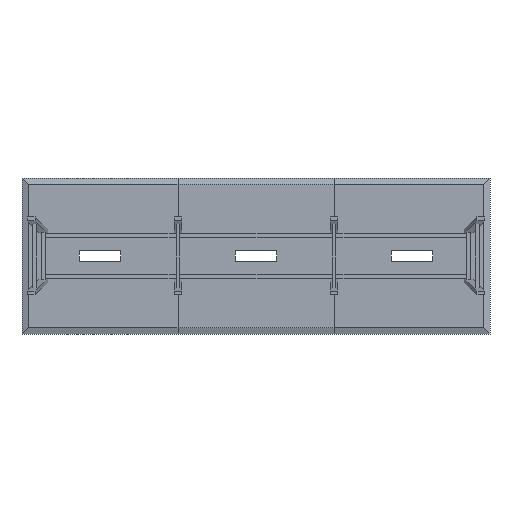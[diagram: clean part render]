
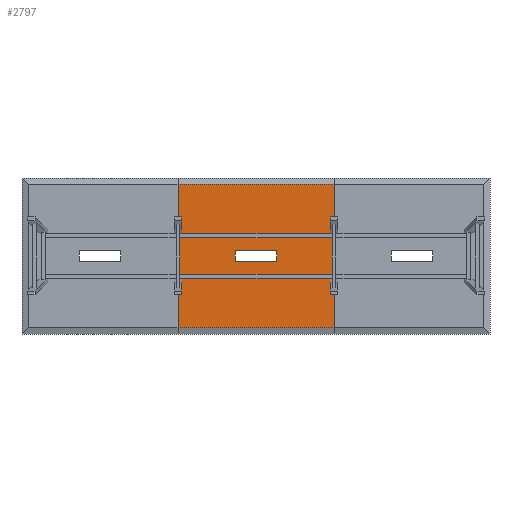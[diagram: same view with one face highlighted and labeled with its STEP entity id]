
A CAD part, front view. The second image highlights one B-rep face of the part: STEP entity #2797.
In plain terms, the highlighted planar face has unit normal (0, -1, 0).
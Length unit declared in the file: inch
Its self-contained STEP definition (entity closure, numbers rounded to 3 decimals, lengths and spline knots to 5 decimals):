
#294=FACE_BOUND('',#479,.T.);
#329=FACE_OUTER_BOUND('',#478,.T.);
#478=EDGE_LOOP('',(#2029,#2030,#2031,#2032));
#479=EDGE_LOOP('',(#2033,#2034,#2035,#2036));
#642=LINE('',#3891,#998);
#646=LINE('',#3899,#1002);
#649=LINE('',#3905,#1005);
#652=LINE('',#3910,#1008);
#657=LINE('',#3920,#1013);
#661=LINE('',#3929,#1017);
#667=LINE('',#3940,#1023);
#671=LINE('',#3947,#1027);
#998=VECTOR('',#3223,0.3937);
#1002=VECTOR('',#3229,0.3937);
#1005=VECTOR('',#3234,0.3937);
#1008=VECTOR('',#3239,0.3937);
#1013=VECTOR('',#3246,0.3937);
#1017=VECTOR('',#3254,0.3937);
#1023=VECTOR('',#3262,0.3937);
#1027=VECTOR('',#3270,0.3937);
#1343=VERTEX_POINT('',#3889);
#1344=VERTEX_POINT('',#3890);
#1347=VERTEX_POINT('',#3898);
#1349=VERTEX_POINT('',#3904);
#1351=VERTEX_POINT('',#3913);
#1354=VERTEX_POINT('',#3918);
#1357=VERTEX_POINT('',#3928);
#1360=VERTEX_POINT('',#3936);
#1590=EDGE_CURVE('',#1343,#1344,#642,.T.);
#1594=EDGE_CURVE('',#1344,#1347,#646,.T.);
#1597=EDGE_CURVE('',#1347,#1349,#649,.T.);
#1600=EDGE_CURVE('',#1349,#1343,#652,.T.);
#1605=EDGE_CURVE('',#1354,#1351,#657,.T.);
#1609=EDGE_CURVE('',#1351,#1357,#661,.T.);
#1615=EDGE_CURVE('',#1357,#1360,#667,.T.);
#1619=EDGE_CURVE('',#1360,#1354,#671,.T.);
#2029=ORIENTED_EDGE('',*,*,#1605,.F.);
#2030=ORIENTED_EDGE('',*,*,#1619,.F.);
#2031=ORIENTED_EDGE('',*,*,#1615,.F.);
#2032=ORIENTED_EDGE('',*,*,#1609,.F.);
#2033=ORIENTED_EDGE('',*,*,#1597,.T.);
#2034=ORIENTED_EDGE('',*,*,#1600,.T.);
#2035=ORIENTED_EDGE('',*,*,#1590,.T.);
#2036=ORIENTED_EDGE('',*,*,#1594,.T.);
#2651=PLANE('',#3033);
#2797=ADVANCED_FACE('',(#329,#294),#2651,.F.);
#3033=AXIS2_PLACEMENT_3D('',#3949,#3273,#3274);
#3223=DIRECTION('',(0.,0.,1.));
#3229=DIRECTION('',(1.,0.,0.));
#3234=DIRECTION('',(0.,0.,-1.));
#3239=DIRECTION('',(-1.,0.,0.));
#3246=DIRECTION('',(-1.,0.,0.));
#3254=DIRECTION('',(0.,0.,1.));
#3262=DIRECTION('',(1.,0.,0.));
#3270=DIRECTION('',(0.,0.,-1.));
#3273=DIRECTION('center_axis',(0.,1.,0.));
#3274=DIRECTION('ref_axis',(0.,0.,1.));
#3889=CARTESIAN_POINT('',(82.,0.,-32.));
#3890=CARTESIAN_POINT('',(82.,0.,-28.));
#3891=CARTESIAN_POINT('',(82.,0.,-29.));
#3898=CARTESIAN_POINT('',(98.,0.,-28.));
#3899=CARTESIAN_POINT('',(94.,0.,-28.));
#3904=CARTESIAN_POINT('',(98.,0.,-32.));
#3905=CARTESIAN_POINT('',(98.,0.,-31.));
#3910=CARTESIAN_POINT('',(86.,0.,-32.));
#3913=CARTESIAN_POINT('',(60.,0.,-57.59596));
#3918=CARTESIAN_POINT('',(120.,0.,-57.59596));
#3920=CARTESIAN_POINT('',(105.,0.,-57.59596));
#3928=CARTESIAN_POINT('',(60.,0.,-2.40404));
#3929=CARTESIAN_POINT('',(60.,0.,-60.));
#3936=CARTESIAN_POINT('',(120.,0.,-2.40404));
#3940=CARTESIAN_POINT('',(75.,0.,-2.40404));
#3947=CARTESIAN_POINT('',(120.,0.,0.));
#3949=CARTESIAN_POINT('Origin',(90.,0.,-30.));
